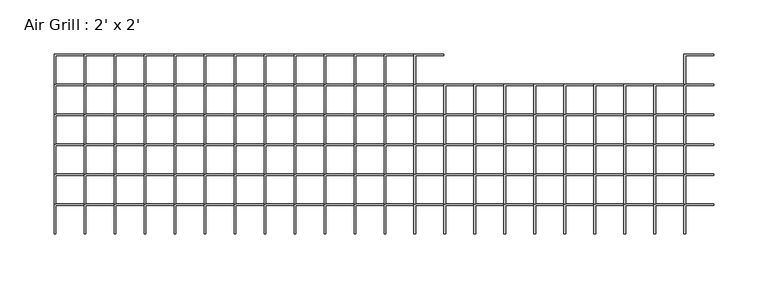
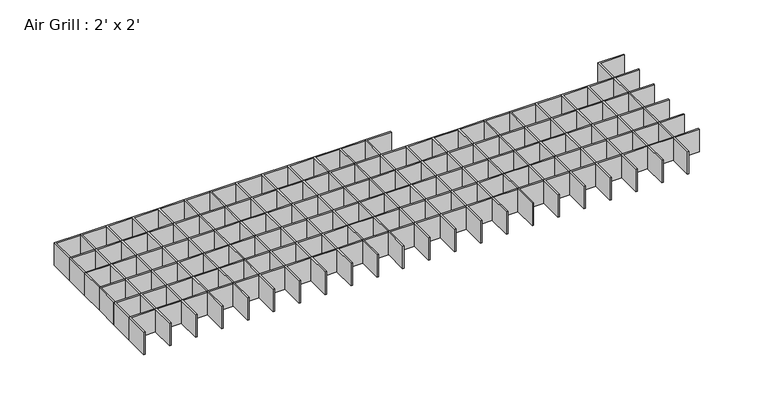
"""IFC4 building model written with IfcOpenShell, lengths in millimetres: proxy geometry, Air Grill : 2' x 2'."""

from ifc_helpers import new_model, si_unit, frame, origin, place, context, project, spatial, polyline, outline, extrude, source, transform, mapped, element, save


def air_grill_2_x_2_5c2ee384(model_context):
    return source(origin(), model_context, "Body", "SweptSolid", [
        extrude(outline(polyline([(26.8431818, -26.8431818), (54.4801136, -26.8431818), (54.4801136, -28.4306818), (28.4306818, -28.4306818), (28.4306818, -54.4801136), (26.8431818, -54.4801136), (26.8431818, -26.8431818)])), frame((0.0, 0.0, 2438.4), z_axis=(0.0, 0.0, 1.0), x_axis=(1.0, 0.0, 0.0)), (0.0, 0.0, 1.0), 25.4),
        extrude(outline(polyline([(-0.79375, -26.8431818), (26.8431818, -26.8431818), (26.8431818, -28.4306818), (0.79375, -28.4306818), (0.79375, -54.4801136), (-0.79375, -54.4801136), (-0.79375, -26.8431818)])), frame((0.0, 0.0, 2438.4), z_axis=(0.0, 0.0, 1.0), x_axis=(1.0, 0.0, 0.0)), (0.0, 0.0, 1.0), 25.4),
        extrude(outline(polyline([(-28.4306818, -26.8431818), (-0.79375, -26.8431818), (-0.79375, -28.4306818), (-26.8431818, -28.4306818), (-26.8431818, -54.4801136), (-28.4306818, -54.4801136), (-28.4306818, -26.8431818)])), frame((0.0, 0.0, 2438.4), z_axis=(0.0, 0.0, 1.0), x_axis=(1.0, 0.0, 0.0)), (0.0, 0.0, 1.0), 25.4),
        extrude(outline(polyline([(-56.0676136, -26.8431818), (-28.4306818, -26.8431818), (-28.4306818, -28.4306818), (-54.4801136, -28.4306818), (-54.4801136, -54.4801136), (-56.0676136, -54.4801136), (-56.0676136, -26.8431818)])), frame((0.0, 0.0, 2438.4), z_axis=(0.0, 0.0, 1.0), x_axis=(1.0, 0.0, 0.0)), (0.0, 0.0, 1.0), 25.4),
        extrude(outline(polyline([(-83.7045455, -26.8431818), (-56.0676136, -26.8431818), (-56.0676136, -28.4306818), (-82.1170455, -28.4306818), (-82.1170455, -54.4801136), (-83.7045455, -54.4801136), (-83.7045455, -26.8431818)])), frame((0.0, 0.0, 2438.4), z_axis=(0.0, 0.0, 1.0), x_axis=(1.0, 0.0, 0.0)), (0.0, 0.0, 1.0), 25.4),
        extrude(outline(polyline([(-111.3414773, -26.8431818), (-83.7045455, -26.8431818), (-83.7045455, -28.4306818), (-109.7539773, -28.4306818), (-109.7539773, -54.4801136), (-111.3414773, -54.4801136), (-111.3414773, -26.8431818)])), frame((0.0, 0.0, 2438.4), z_axis=(0.0, 0.0, 1.0), x_axis=(1.0, 0.0, 0.0)), (0.0, 0.0, 1.0), 25.4),
        extrude(outline(polyline([(-138.9784091, -26.8431818), (-111.3414773, -26.8431818), (-111.3414773, -28.4306818), (-137.3909091, -28.4306818), (-137.3909091, -54.4801136), (-138.9784091, -54.4801136), (-138.9784091, -26.8431818)])), frame((0.0, 0.0, 2438.4), z_axis=(0.0, 0.0, 1.0), x_axis=(1.0, 0.0, 0.0)), (0.0, 0.0, 1.0), 25.4),
        extrude(outline(polyline([(-166.6153409, -26.8431818), (-138.9784091, -26.8431818), (-138.9784091, -28.4306818), (-165.0278409, -28.4306818), (-165.0278409, -54.4801136), (-166.6153409, -54.4801136), (-166.6153409, -26.8431818)])), frame((0.0, 0.0, 2438.4), z_axis=(0.0, 0.0, 1.0), x_axis=(1.0, 0.0, 0.0)), (0.0, 0.0, 1.0), 25.4),
        extrude(outline(polyline([(-194.2522727, -26.8431818), (-166.6153409, -26.8431818), (-166.6153409, -28.4306818), (-192.6647727, -28.4306818), (-192.6647727, -54.4801136), (-194.2522727, -54.4801136), (-194.2522727, -26.8431818)])), frame((0.0, 0.0, 2438.4), z_axis=(0.0, 0.0, 1.0), x_axis=(1.0, 0.0, 0.0)), (0.0, 0.0, 1.0), 25.4),
        extrude(outline(polyline([(-221.8892045, -26.8431818), (-194.2522727, -26.8431818), (-194.2522727, -28.4306818), (-220.3017045, -28.4306818), (-220.3017045, -54.4801136), (-221.8892045, -54.4801136), (-221.8892045, -26.8431818)])), frame((0.0, 0.0, 2438.4), z_axis=(0.0, 0.0, 1.0), x_axis=(1.0, 0.0, 0.0)), (0.0, 0.0, 1.0), 25.4),
        extrude(outline(polyline([(-249.5261364, -26.8431818), (-221.8892045, -26.8431818), (-221.8892045, -28.4306818), (-247.9386364, -28.4306818), (-247.9386364, -54.4801136), (-249.5261364, -54.4801136), (-249.5261364, -26.8431818)])), frame((0.0, 0.0, 2438.4), z_axis=(0.0, 0.0, 1.0), x_axis=(1.0, 0.0, 0.0)), (0.0, 0.0, 1.0), 25.4),
        extrude(outline(polyline([(-277.1630682, -26.8431818), (-249.5261364, -26.8431818), (-249.5261364, -28.4306818), (-275.5755682, -28.4306818), (-275.5755682, -54.4801136), (-277.1630682, -54.4801136), (-277.1630682, -26.8431818)])), frame((0.0, 0.0, 2438.4), z_axis=(0.0, 0.0, 1.0), x_axis=(1.0, 0.0, 0.0)), (0.0, 0.0, 1.0), 25.4),
        extrude(outline(polyline([(275.5755682, -26.8431818), (303.2125, -26.8431818), (303.2125, -28.4306818), (277.1630682, -28.4306818), (277.1630682, -54.4801136), (275.5755682, -54.4801136), (275.5755682, -26.8431818)])), frame((0.0, 0.0, 2438.4), z_axis=(0.0, 0.0, 1.0), x_axis=(1.0, 0.0, 0.0)), (0.0, 0.0, 1.0), 25.4),
        extrude(outline(polyline([(-304.8, -26.8431818), (-277.1630682, -26.8431818), (-277.1630682, -28.4306818), (-303.2125, -28.4306818), (-303.2125, -54.4801136), (-304.8, -54.4801136), (-304.8, -26.8431818)])), frame((0.0, 0.0, 2438.4), z_axis=(0.0, 0.0, 1.0), x_axis=(1.0, 0.0, 0.0)), (0.0, 0.0, 1.0), 25.4),
        extrude(outline(polyline([(247.9386364, -54.4801136), (275.5755682, -54.4801136), (275.5755682, -56.0676136), (249.5261364, -56.0676136), (249.5261364, -82.1170455), (247.9386364, -82.1170455), (247.9386364, -54.4801136)])), frame((0.0, 0.0, 2438.4), z_axis=(0.0, 0.0, 1.0), x_axis=(1.0, 0.0, 0.0)), (0.0, 0.0, 1.0), 25.4),
        extrude(outline(polyline([(220.3017045, -54.4801136), (247.9386364, -54.4801136), (247.9386364, -56.0676136), (221.8892045, -56.0676136), (221.8892045, -82.1170455), (220.3017045, -82.1170455), (220.3017045, -54.4801136)])), frame((0.0, 0.0, 2438.4), z_axis=(0.0, 0.0, 1.0), x_axis=(1.0, 0.0, 0.0)), (0.0, 0.0, 1.0), 25.4),
        extrude(outline(polyline([(192.6647727, -54.4801136), (220.3017045, -54.4801136), (220.3017045, -56.0676136), (194.2522727, -56.0676136), (194.2522727, -82.1170455), (192.6647727, -82.1170455), (192.6647727, -54.4801136)])), frame((0.0, 0.0, 2438.4), z_axis=(0.0, 0.0, 1.0), x_axis=(1.0, 0.0, 0.0)), (0.0, 0.0, 1.0), 25.4),
        extrude(outline(polyline([(165.0278409, -54.4801136), (192.6647727, -54.4801136), (192.6647727, -56.0676136), (166.6153409, -56.0676136), (166.6153409, -82.1170455), (165.0278409, -82.1170455), (165.0278409, -54.4801136)])), frame((0.0, 0.0, 2438.4), z_axis=(0.0, 0.0, 1.0), x_axis=(1.0, 0.0, 0.0)), (0.0, 0.0, 1.0), 25.4),
        extrude(outline(polyline([(137.3909091, -54.4801136), (165.0278409, -54.4801136), (165.0278409, -56.0676136), (138.9784091, -56.0676136), (138.9784091, -82.1170455), (137.3909091, -82.1170455), (137.3909091, -54.4801136)])), frame((0.0, 0.0, 2438.4), z_axis=(0.0, 0.0, 1.0), x_axis=(1.0, 0.0, 0.0)), (0.0, 0.0, 1.0), 25.4),
        extrude(outline(polyline([(109.7539773, -54.4801136), (137.3909091, -54.4801136), (137.3909091, -56.0676136), (111.3414773, -56.0676136), (111.3414773, -82.1170455), (109.7539773, -82.1170455), (109.7539773, -54.4801136)])), frame((0.0, 0.0, 2438.4), z_axis=(0.0, 0.0, 1.0), x_axis=(1.0, 0.0, 0.0)), (0.0, 0.0, 1.0), 25.4),
        extrude(outline(polyline([(82.1170455, -54.4801136), (109.7539773, -54.4801136), (109.7539773, -56.0676136), (83.7045455, -56.0676136), (83.7045455, -82.1170455), (82.1170455, -82.1170455), (82.1170455, -54.4801136)])), frame((0.0, 0.0, 2438.4), z_axis=(0.0, 0.0, 1.0), x_axis=(1.0, 0.0, 0.0)), (0.0, 0.0, 1.0), 25.4),
        extrude(outline(polyline([(54.4801136, -54.4801136), (82.1170455, -54.4801136), (82.1170455, -56.0676136), (56.0676136, -56.0676136), (56.0676136, -82.1170455), (54.4801136, -82.1170455), (54.4801136, -54.4801136)])), frame((0.0, 0.0, 2438.4), z_axis=(0.0, 0.0, 1.0), x_axis=(1.0, 0.0, 0.0)), (0.0, 0.0, 1.0), 25.4),
        extrude(outline(polyline([(26.8431818, -54.4801136), (54.4801136, -54.4801136), (54.4801136, -56.0676136), (28.4306818, -56.0676136), (28.4306818, -82.1170455), (26.8431818, -82.1170455), (26.8431818, -54.4801136)])), frame((0.0, 0.0, 2438.4), z_axis=(0.0, 0.0, 1.0), x_axis=(1.0, 0.0, 0.0)), (0.0, 0.0, 1.0), 25.4),
        extrude(outline(polyline([(-0.79375, -54.4801136), (26.8431818, -54.4801136), (26.8431818, -56.0676136), (0.79375, -56.0676136), (0.79375, -82.1170455), (-0.79375, -82.1170455), (-0.79375, -54.4801136)])), frame((0.0, 0.0, 2438.4), z_axis=(0.0, 0.0, 1.0), x_axis=(1.0, 0.0, 0.0)), (0.0, 0.0, 1.0), 25.4),
        extrude(outline(polyline([(-28.4306818, -54.4801136), (-0.79375, -54.4801136), (-0.79375, -56.0676136), (-26.8431818, -56.0676136), (-26.8431818, -82.1170455), (-28.4306818, -82.1170455), (-28.4306818, -54.4801136)])), frame((0.0, 0.0, 2438.4), z_axis=(0.0, 0.0, 1.0), x_axis=(1.0, 0.0, 0.0)), (0.0, 0.0, 1.0), 25.4),
        extrude(outline(polyline([(-56.0676136, -54.4801136), (-28.4306818, -54.4801136), (-28.4306818, -56.0676136), (-54.4801136, -56.0676136), (-54.4801136, -82.1170455), (-56.0676136, -82.1170455), (-56.0676136, -54.4801136)])), frame((0.0, 0.0, 2438.4), z_axis=(0.0, 0.0, 1.0), x_axis=(1.0, 0.0, 0.0)), (0.0, 0.0, 1.0), 25.4),
        extrude(outline(polyline([(-83.7045455, -54.4801136), (-56.0676136, -54.4801136), (-56.0676136, -56.0676136), (-82.1170455, -56.0676136), (-82.1170455, -82.1170455), (-83.7045455, -82.1170455), (-83.7045455, -54.4801136)])), frame((0.0, 0.0, 2438.4), z_axis=(0.0, 0.0, 1.0), x_axis=(1.0, 0.0, 0.0)), (0.0, 0.0, 1.0), 25.4),
        extrude(outline(polyline([(-111.3414773, -54.4801136), (-83.7045455, -54.4801136), (-83.7045455, -56.0676136), (-109.7539773, -56.0676136), (-109.7539773, -82.1170455), (-111.3414773, -82.1170455), (-111.3414773, -54.4801136)])), frame((0.0, 0.0, 2438.4), z_axis=(0.0, 0.0, 1.0), x_axis=(1.0, 0.0, 0.0)), (0.0, 0.0, 1.0), 25.4),
        extrude(outline(polyline([(-138.9784091, -54.4801136), (-111.3414773, -54.4801136), (-111.3414773, -56.0676136), (-137.3909091, -56.0676136), (-137.3909091, -82.1170455), (-138.9784091, -82.1170455), (-138.9784091, -54.4801136)])), frame((0.0, 0.0, 2438.4), z_axis=(0.0, 0.0, 1.0), x_axis=(1.0, 0.0, 0.0)), (0.0, 0.0, 1.0), 25.4),
        extrude(outline(polyline([(-166.6153409, -54.4801136), (-138.9784091, -54.4801136), (-138.9784091, -56.0676136), (-165.0278409, -56.0676136), (-165.0278409, -82.1170455), (-166.6153409, -82.1170455), (-166.6153409, -54.4801136)])), frame((0.0, 0.0, 2438.4), z_axis=(0.0, 0.0, 1.0), x_axis=(1.0, 0.0, 0.0)), (0.0, 0.0, 1.0), 25.4),
        extrude(outline(polyline([(-194.2522727, -54.4801136), (-166.6153409, -54.4801136), (-166.6153409, -56.0676136), (-192.6647727, -56.0676136), (-192.6647727, -82.1170455), (-194.2522727, -82.1170455), (-194.2522727, -54.4801136)])), frame((0.0, 0.0, 2438.4), z_axis=(0.0, 0.0, 1.0), x_axis=(1.0, 0.0, 0.0)), (0.0, 0.0, 1.0), 25.4),
        extrude(outline(polyline([(-221.8892045, -54.4801136), (-194.2522727, -54.4801136), (-194.2522727, -56.0676136), (-220.3017045, -56.0676136), (-220.3017045, -82.1170455), (-221.8892045, -82.1170455), (-221.8892045, -54.4801136)])), frame((0.0, 0.0, 2438.4), z_axis=(0.0, 0.0, 1.0), x_axis=(1.0, 0.0, 0.0)), (0.0, 0.0, 1.0), 25.4),
        extrude(outline(polyline([(-249.5261364, -54.4801136), (-221.8892045, -54.4801136), (-221.8892045, -56.0676136), (-247.9386364, -56.0676136), (-247.9386364, -82.1170455), (-249.5261364, -82.1170455), (-249.5261364, -54.4801136)])), frame((0.0, 0.0, 2438.4), z_axis=(0.0, 0.0, 1.0), x_axis=(1.0, 0.0, 0.0)), (0.0, 0.0, 1.0), 25.4),
        extrude(outline(polyline([(-277.1630682, -54.4801136), (-249.5261364, -54.4801136), (-249.5261364, -56.0676136), (-275.5755682, -56.0676136), (-275.5755682, -82.1170455), (-277.1630682, -82.1170455), (-277.1630682, -54.4801136)])), frame((0.0, 0.0, 2438.4), z_axis=(0.0, 0.0, 1.0), x_axis=(1.0, 0.0, 0.0)), (0.0, 0.0, 1.0), 25.4),
        extrude(outline(polyline([(275.5755682, -54.4801136), (303.2125, -54.4801136), (303.2125, -56.0676136), (277.1630682, -56.0676136), (277.1630682, -82.1170455), (275.5755682, -82.1170455), (275.5755682, -54.4801136)])), frame((0.0, 0.0, 2438.4), z_axis=(0.0, 0.0, 1.0), x_axis=(1.0, 0.0, 0.0)), (0.0, 0.0, 1.0), 25.4),
        extrude(outline(polyline([(-304.8, -54.4801136), (-277.1630682, -54.4801136), (-277.1630682, -56.0676136), (-303.2125, -56.0676136), (-303.2125, -82.1170455), (-304.8, -82.1170455), (-304.8, -54.4801136)])), frame((0.0, 0.0, 2438.4), z_axis=(0.0, 0.0, 1.0), x_axis=(1.0, 0.0, 0.0)), (0.0, 0.0, 1.0), 25.4),
        extrude(outline(polyline([(247.9386364, -82.1170455), (275.5755682, -82.1170455), (275.5755682, -83.7045455), (249.5261364, -83.7045455), (249.5261364, -109.7539773), (247.9386364, -109.7539773), (247.9386364, -82.1170455)])), frame((0.0, 0.0, 2438.4), z_axis=(0.0, 0.0, 1.0), x_axis=(1.0, 0.0, 0.0)), (0.0, 0.0, 1.0), 25.4),
        extrude(outline(polyline([(220.3017045, -82.1170455), (247.9386364, -82.1170455), (247.9386364, -83.7045455), (221.8892045, -83.7045455), (221.8892045, -109.7539773), (220.3017045, -109.7539773), (220.3017045, -82.1170455)])), frame((0.0, 0.0, 2438.4), z_axis=(0.0, 0.0, 1.0), x_axis=(1.0, 0.0, 0.0)), (0.0, 0.0, 1.0), 25.4),
        extrude(outline(polyline([(192.6647727, -82.1170455), (220.3017045, -82.1170455), (220.3017045, -83.7045455), (194.2522727, -83.7045455), (194.2522727, -109.7539773), (192.6647727, -109.7539773), (192.6647727, -82.1170455)])), frame((0.0, 0.0, 2438.4), z_axis=(0.0, 0.0, 1.0), x_axis=(1.0, 0.0, 0.0)), (0.0, 0.0, 1.0), 25.4),
        extrude(outline(polyline([(165.0278409, -82.1170455), (192.6647727, -82.1170455), (192.6647727, -83.7045455), (166.6153409, -83.7045455), (166.6153409, -109.7539773), (165.0278409, -109.7539773), (165.0278409, -82.1170455)])), frame((0.0, 0.0, 2438.4), z_axis=(0.0, 0.0, 1.0), x_axis=(1.0, 0.0, 0.0)), (0.0, 0.0, 1.0), 25.4),
        extrude(outline(polyline([(137.3909091, -82.1170455), (165.0278409, -82.1170455), (165.0278409, -83.7045455), (138.9784091, -83.7045455), (138.9784091, -109.7539773), (137.3909091, -109.7539773), (137.3909091, -82.1170455)])), frame((0.0, 0.0, 2438.4), z_axis=(0.0, 0.0, 1.0), x_axis=(1.0, 0.0, 0.0)), (0.0, 0.0, 1.0), 25.4),
        extrude(outline(polyline([(109.7539773, -82.1170455), (137.3909091, -82.1170455), (137.3909091, -83.7045455), (111.3414773, -83.7045455), (111.3414773, -109.7539773), (109.7539773, -109.7539773), (109.7539773, -82.1170455)])), frame((0.0, 0.0, 2438.4), z_axis=(0.0, 0.0, 1.0), x_axis=(1.0, 0.0, 0.0)), (0.0, 0.0, 1.0), 25.4),
        extrude(outline(polyline([(82.1170455, -82.1170455), (109.7539773, -82.1170455), (109.7539773, -83.7045455), (83.7045455, -83.7045455), (83.7045455, -109.7539773), (82.1170455, -109.7539773), (82.1170455, -82.1170455)])), frame((0.0, 0.0, 2438.4), z_axis=(0.0, 0.0, 1.0), x_axis=(1.0, 0.0, 0.0)), (0.0, 0.0, 1.0), 25.4),
        extrude(outline(polyline([(54.4801136, -82.1170455), (82.1170455, -82.1170455), (82.1170455, -83.7045455), (56.0676136, -83.7045455), (56.0676136, -109.7539773), (54.4801136, -109.7539773), (54.4801136, -82.1170455)])), frame((0.0, 0.0, 2438.4), z_axis=(0.0, 0.0, 1.0), x_axis=(1.0, 0.0, 0.0)), (0.0, 0.0, 1.0), 25.4),
        extrude(outline(polyline([(26.8431818, -82.1170455), (54.4801136, -82.1170455), (54.4801136, -83.7045455), (28.4306818, -83.7045455), (28.4306818, -109.7539773), (26.8431818, -109.7539773), (26.8431818, -82.1170455)])), frame((0.0, 0.0, 2438.4), z_axis=(0.0, 0.0, 1.0), x_axis=(1.0, 0.0, 0.0)), (0.0, 0.0, 1.0), 25.4),
        extrude(outline(polyline([(-0.79375, -82.1170455), (26.8431818, -82.1170455), (26.8431818, -83.7045455), (0.79375, -83.7045455), (0.79375, -109.7539773), (-0.79375, -109.7539773), (-0.79375, -82.1170455)])), frame((0.0, 0.0, 2438.4), z_axis=(0.0, 0.0, 1.0), x_axis=(1.0, 0.0, 0.0)), (0.0, 0.0, 1.0), 25.4),
        extrude(outline(polyline([(-28.4306818, -82.1170455), (-0.79375, -82.1170455), (-0.79375, -83.7045455), (-26.8431818, -83.7045455), (-26.8431818, -109.7539773), (-28.4306818, -109.7539773), (-28.4306818, -82.1170455)])), frame((0.0, 0.0, 2438.4), z_axis=(0.0, 0.0, 1.0), x_axis=(1.0, 0.0, 0.0)), (0.0, 0.0, 1.0), 25.4),
        extrude(outline(polyline([(-56.0676136, -82.1170455), (-28.4306818, -82.1170455), (-28.4306818, -83.7045455), (-54.4801136, -83.7045455), (-54.4801136, -109.7539773), (-56.0676136, -109.7539773), (-56.0676136, -82.1170455)])), frame((0.0, 0.0, 2438.4), z_axis=(0.0, 0.0, 1.0), x_axis=(1.0, 0.0, 0.0)), (0.0, 0.0, 1.0), 25.4),
        extrude(outline(polyline([(-83.7045455, -82.1170455), (-56.0676136, -82.1170455), (-56.0676136, -83.7045455), (-82.1170455, -83.7045455), (-82.1170455, -109.7539773), (-83.7045455, -109.7539773), (-83.7045455, -82.1170455)])), frame((0.0, 0.0, 2438.4), z_axis=(0.0, 0.0, 1.0), x_axis=(1.0, 0.0, 0.0)), (0.0, 0.0, 1.0), 25.4),
        extrude(outline(polyline([(-111.3414773, -82.1170455), (-83.7045455, -82.1170455), (-83.7045455, -83.7045455), (-109.7539773, -83.7045455), (-109.7539773, -109.7539773), (-111.3414773, -109.7539773), (-111.3414773, -82.1170455)])), frame((0.0, 0.0, 2438.4), z_axis=(0.0, 0.0, 1.0), x_axis=(1.0, 0.0, 0.0)), (0.0, 0.0, 1.0), 25.4),
        extrude(outline(polyline([(-138.9784091, -82.1170455), (-111.3414773, -82.1170455), (-111.3414773, -83.7045455), (-137.3909091, -83.7045455), (-137.3909091, -109.7539773), (-138.9784091, -109.7539773), (-138.9784091, -82.1170455)])), frame((0.0, 0.0, 2438.4), z_axis=(0.0, 0.0, 1.0), x_axis=(1.0, 0.0, 0.0)), (0.0, 0.0, 1.0), 25.4),
        extrude(outline(polyline([(-166.6153409, -82.1170455), (-138.9784091, -82.1170455), (-138.9784091, -83.7045455), (-165.0278409, -83.7045455), (-165.0278409, -109.7539773), (-166.6153409, -109.7539773), (-166.6153409, -82.1170455)])), frame((0.0, 0.0, 2438.4), z_axis=(0.0, 0.0, 1.0), x_axis=(1.0, 0.0, 0.0)), (0.0, 0.0, 1.0), 25.4),
        extrude(outline(polyline([(-194.2522727, -82.1170455), (-166.6153409, -82.1170455), (-166.6153409, -83.7045455), (-192.6647727, -83.7045455), (-192.6647727, -109.7539773), (-194.2522727, -109.7539773), (-194.2522727, -82.1170455)])), frame((0.0, 0.0, 2438.4), z_axis=(0.0, 0.0, 1.0), x_axis=(1.0, 0.0, 0.0)), (0.0, 0.0, 1.0), 25.4),
        extrude(outline(polyline([(-221.8892045, -82.1170455), (-194.2522727, -82.1170455), (-194.2522727, -83.7045455), (-220.3017045, -83.7045455), (-220.3017045, -109.7539773), (-221.8892045, -109.7539773), (-221.8892045, -82.1170455)])), frame((0.0, 0.0, 2438.4), z_axis=(0.0, 0.0, 1.0), x_axis=(1.0, 0.0, 0.0)), (0.0, 0.0, 1.0), 25.4),
        extrude(outline(polyline([(-249.5261364, -82.1170455), (-221.8892045, -82.1170455), (-221.8892045, -83.7045455), (-247.9386364, -83.7045455), (-247.9386364, -109.7539773), (-249.5261364, -109.7539773), (-249.5261364, -82.1170455)])), frame((0.0, 0.0, 2438.4), z_axis=(0.0, 0.0, 1.0), x_axis=(1.0, 0.0, 0.0)), (0.0, 0.0, 1.0), 25.4),
        extrude(outline(polyline([(-277.1630682, -82.1170455), (-249.5261364, -82.1170455), (-249.5261364, -83.7045455), (-275.5755682, -83.7045455), (-275.5755682, -109.7539773), (-277.1630682, -109.7539773), (-277.1630682, -82.1170455)])), frame((0.0, 0.0, 2438.4), z_axis=(0.0, 0.0, 1.0), x_axis=(1.0, 0.0, 0.0)), (0.0, 0.0, 1.0), 25.4),
        extrude(outline(polyline([(275.5755682, -82.1170455), (303.2125, -82.1170455), (303.2125, -83.7045455), (277.1630682, -83.7045455), (277.1630682, -109.7539773), (275.5755682, -109.7539773), (275.5755682, -82.1170455)])), frame((0.0, 0.0, 2438.4), z_axis=(0.0, 0.0, 1.0), x_axis=(1.0, 0.0, 0.0)), (0.0, 0.0, 1.0), 25.4),
        extrude(outline(polyline([(-304.8, -82.1170455), (-277.1630682, -82.1170455), (-277.1630682, -83.7045455), (-303.2125, -83.7045455), (-303.2125, -109.7539773), (-304.8, -109.7539773), (-304.8, -82.1170455)])), frame((0.0, 0.0, 2438.4), z_axis=(0.0, 0.0, 1.0), x_axis=(1.0, 0.0, 0.0)), (0.0, 0.0, 1.0), 25.4),
        extrude(outline(polyline([(247.9386364, -109.7539773), (275.5755682, -109.7539773), (275.5755682, -111.3414773), (249.5261364, -111.3414773), (249.5261364, -137.3909091), (247.9386364, -137.3909091), (247.9386364, -109.7539773)])), frame((0.0, 0.0, 2438.4), z_axis=(0.0, 0.0, 1.0), x_axis=(1.0, 0.0, 0.0)), (0.0, 0.0, 1.0), 25.4),
        extrude(outline(polyline([(220.3017045, -109.7539773), (247.9386364, -109.7539773), (247.9386364, -111.3414773), (221.8892045, -111.3414773), (221.8892045, -137.3909091), (220.3017045, -137.3909091), (220.3017045, -109.7539773)])), frame((0.0, 0.0, 2438.4), z_axis=(0.0, 0.0, 1.0), x_axis=(1.0, 0.0, 0.0)), (0.0, 0.0, 1.0), 25.4),
        extrude(outline(polyline([(192.6647727, -109.7539773), (220.3017045, -109.7539773), (220.3017045, -111.3414773), (194.2522727, -111.3414773), (194.2522727, -137.3909091), (192.6647727, -137.3909091), (192.6647727, -109.7539773)])), frame((0.0, 0.0, 2438.4), z_axis=(0.0, 0.0, 1.0), x_axis=(1.0, 0.0, 0.0)), (0.0, 0.0, 1.0), 25.4),
        extrude(outline(polyline([(165.0278409, -109.7539773), (192.6647727, -109.7539773), (192.6647727, -111.3414773), (166.6153409, -111.3414773), (166.6153409, -137.3909091), (165.0278409, -137.3909091), (165.0278409, -109.7539773)])), frame((0.0, 0.0, 2438.4), z_axis=(0.0, 0.0, 1.0), x_axis=(1.0, 0.0, 0.0)), (0.0, 0.0, 1.0), 25.4),
        extrude(outline(polyline([(137.3909091, -109.7539773), (165.0278409, -109.7539773), (165.0278409, -111.3414773), (138.9784091, -111.3414773), (138.9784091, -137.3909091), (137.3909091, -137.3909091), (137.3909091, -109.7539773)])), frame((0.0, 0.0, 2438.4), z_axis=(0.0, 0.0, 1.0), x_axis=(1.0, 0.0, 0.0)), (0.0, 0.0, 1.0), 25.4),
        extrude(outline(polyline([(109.7539773, -109.7539773), (137.3909091, -109.7539773), (137.3909091, -111.3414773), (111.3414773, -111.3414773), (111.3414773, -137.3909091), (109.7539773, -137.3909091), (109.7539773, -109.7539773)])), frame((0.0, 0.0, 2438.4), z_axis=(0.0, 0.0, 1.0), x_axis=(1.0, 0.0, 0.0)), (0.0, 0.0, 1.0), 25.4),
        extrude(outline(polyline([(82.1170455, -109.7539773), (109.7539773, -109.7539773), (109.7539773, -111.3414773), (83.7045455, -111.3414773), (83.7045455, -137.3909091), (82.1170455, -137.3909091), (82.1170455, -109.7539773)])), frame((0.0, 0.0, 2438.4), z_axis=(0.0, 0.0, 1.0), x_axis=(1.0, 0.0, 0.0)), (0.0, 0.0, 1.0), 25.4),
        extrude(outline(polyline([(54.4801136, -109.7539773), (82.1170455, -109.7539773), (82.1170455, -111.3414773), (56.0676136, -111.3414773), (56.0676136, -137.3909091), (54.4801136, -137.3909091), (54.4801136, -109.7539773)])), frame((0.0, 0.0, 2438.4), z_axis=(0.0, 0.0, 1.0), x_axis=(1.0, 0.0, 0.0)), (0.0, 0.0, 1.0), 25.4),
        extrude(outline(polyline([(26.8431818, -109.7539773), (54.4801136, -109.7539773), (54.4801136, -111.3414773), (28.4306818, -111.3414773), (28.4306818, -137.3909091), (26.8431818, -137.3909091), (26.8431818, -109.7539773)])), frame((0.0, 0.0, 2438.4), z_axis=(0.0, 0.0, 1.0), x_axis=(1.0, 0.0, 0.0)), (0.0, 0.0, 1.0), 25.4),
        extrude(outline(polyline([(-0.79375, -109.7539773), (26.8431818, -109.7539773), (26.8431818, -111.3414773), (0.79375, -111.3414773), (0.79375, -137.3909091), (-0.79375, -137.3909091), (-0.79375, -109.7539773)])), frame((0.0, 0.0, 2438.4), z_axis=(0.0, 0.0, 1.0), x_axis=(1.0, 0.0, 0.0)), (0.0, 0.0, 1.0), 25.4),
        extrude(outline(polyline([(-28.4306818, -109.7539773), (-0.79375, -109.7539773), (-0.79375, -111.3414773), (-26.8431818, -111.3414773), (-26.8431818, -137.3909091), (-28.4306818, -137.3909091), (-28.4306818, -109.7539773)])), frame((0.0, 0.0, 2438.4), z_axis=(0.0, 0.0, 1.0), x_axis=(1.0, 0.0, 0.0)), (0.0, 0.0, 1.0), 25.4),
        extrude(outline(polyline([(-56.0676136, -109.7539773), (-28.4306818, -109.7539773), (-28.4306818, -111.3414773), (-54.4801136, -111.3414773), (-54.4801136, -137.3909091), (-56.0676136, -137.3909091), (-56.0676136, -109.7539773)])), frame((0.0, 0.0, 2438.4), z_axis=(0.0, 0.0, 1.0), x_axis=(1.0, 0.0, 0.0)), (0.0, 0.0, 1.0), 25.4),
        extrude(outline(polyline([(-83.7045455, -109.7539773), (-56.0676136, -109.7539773), (-56.0676136, -111.3414773), (-82.1170455, -111.3414773), (-82.1170455, -137.3909091), (-83.7045455, -137.3909091), (-83.7045455, -109.7539773)])), frame((0.0, 0.0, 2438.4), z_axis=(0.0, 0.0, 1.0), x_axis=(1.0, 0.0, 0.0)), (0.0, 0.0, 1.0), 25.4),
        extrude(outline(polyline([(-111.3414773, -109.7539773), (-83.7045455, -109.7539773), (-83.7045455, -111.3414773), (-109.7539773, -111.3414773), (-109.7539773, -137.3909091), (-111.3414773, -137.3909091), (-111.3414773, -109.7539773)])), frame((0.0, 0.0, 2438.4), z_axis=(0.0, 0.0, 1.0), x_axis=(1.0, 0.0, 0.0)), (0.0, 0.0, 1.0), 25.4),
        extrude(outline(polyline([(-138.9784091, -109.7539773), (-111.3414773, -109.7539773), (-111.3414773, -111.3414773), (-137.3909091, -111.3414773), (-137.3909091, -137.3909091), (-138.9784091, -137.3909091), (-138.9784091, -109.7539773)])), frame((0.0, 0.0, 2438.4), z_axis=(0.0, 0.0, 1.0), x_axis=(1.0, 0.0, 0.0)), (0.0, 0.0, 1.0), 25.4),
        extrude(outline(polyline([(-166.6153409, -109.7539773), (-138.9784091, -109.7539773), (-138.9784091, -111.3414773), (-165.0278409, -111.3414773), (-165.0278409, -137.3909091), (-166.6153409, -137.3909091), (-166.6153409, -109.7539773)])), frame((0.0, 0.0, 2438.4), z_axis=(0.0, 0.0, 1.0), x_axis=(1.0, 0.0, 0.0)), (0.0, 0.0, 1.0), 25.4),
        extrude(outline(polyline([(-194.2522727, -109.7539773), (-166.6153409, -109.7539773), (-166.6153409, -111.3414773), (-192.6647727, -111.3414773), (-192.6647727, -137.3909091), (-194.2522727, -137.3909091), (-194.2522727, -109.7539773)])), frame((0.0, 0.0, 2438.4), z_axis=(0.0, 0.0, 1.0), x_axis=(1.0, 0.0, 0.0)), (0.0, 0.0, 1.0), 25.4),
        extrude(outline(polyline([(-221.8892045, -109.7539773), (-194.2522727, -109.7539773), (-194.2522727, -111.3414773), (-220.3017045, -111.3414773), (-220.3017045, -137.3909091), (-221.8892045, -137.3909091), (-221.8892045, -109.7539773)])), frame((0.0, 0.0, 2438.4), z_axis=(0.0, 0.0, 1.0), x_axis=(1.0, 0.0, 0.0)), (0.0, 0.0, 1.0), 25.4),
        extrude(outline(polyline([(-249.5261364, -109.7539773), (-221.8892045, -109.7539773), (-221.8892045, -111.3414773), (-247.9386364, -111.3414773), (-247.9386364, -137.3909091), (-249.5261364, -137.3909091), (-249.5261364, -109.7539773)])), frame((0.0, 0.0, 2438.4), z_axis=(0.0, 0.0, 1.0), x_axis=(1.0, 0.0, 0.0)), (0.0, 0.0, 1.0), 25.4),
        extrude(outline(polyline([(-277.1630682, -109.7539773), (-249.5261364, -109.7539773), (-249.5261364, -111.3414773), (-275.5755682, -111.3414773), (-275.5755682, -137.3909091), (-277.1630682, -137.3909091), (-277.1630682, -109.7539773)])), frame((0.0, 0.0, 2438.4), z_axis=(0.0, 0.0, 1.0), x_axis=(1.0, 0.0, 0.0)), (0.0, 0.0, 1.0), 25.4),
        extrude(outline(polyline([(275.5755682, -109.7539773), (303.2125, -109.7539773), (303.2125, -111.3414773), (277.1630682, -111.3414773), (277.1630682, -137.3909091), (275.5755682, -137.3909091), (275.5755682, -109.7539773)])), frame((0.0, 0.0, 2438.4), z_axis=(0.0, 0.0, 1.0), x_axis=(1.0, 0.0, 0.0)), (0.0, 0.0, 1.0), 25.4),
        extrude(outline(polyline([(-304.8, -109.7539773), (-277.1630682, -109.7539773), (-277.1630682, -111.3414773), (-303.2125, -111.3414773), (-303.2125, -137.3909091), (-304.8, -137.3909091), (-304.8, -109.7539773)])), frame((0.0, 0.0, 2438.4), z_axis=(0.0, 0.0, 1.0), x_axis=(1.0, 0.0, 0.0)), (0.0, 0.0, 1.0), 25.4),
        extrude(outline(polyline([(247.9386364, -137.3909091), (275.5755682, -137.3909091), (275.5755682, -138.9784091), (249.5261364, -138.9784091), (249.5261364, -165.0278409), (247.9386364, -165.0278409), (247.9386364, -137.3909091)])), frame((0.0, 0.0, 2438.4), z_axis=(0.0, 0.0, 1.0), x_axis=(1.0, 0.0, 0.0)), (0.0, 0.0, 1.0), 25.4),
        extrude(outline(polyline([(220.3017045, -137.3909091), (247.9386364, -137.3909091), (247.9386364, -138.9784091), (221.8892045, -138.9784091), (221.8892045, -165.0278409), (220.3017045, -165.0278409), (220.3017045, -137.3909091)])), frame((0.0, 0.0, 2438.4), z_axis=(0.0, 0.0, 1.0), x_axis=(1.0, 0.0, 0.0)), (0.0, 0.0, 1.0), 25.4),
        extrude(outline(polyline([(192.6647727, -137.3909091), (220.3017045, -137.3909091), (220.3017045, -138.9784091), (194.2522727, -138.9784091), (194.2522727, -165.0278409), (192.6647727, -165.0278409), (192.6647727, -137.3909091)])), frame((0.0, 0.0, 2438.4), z_axis=(0.0, 0.0, 1.0), x_axis=(1.0, 0.0, 0.0)), (0.0, 0.0, 1.0), 25.4),
        extrude(outline(polyline([(165.0278409, -137.3909091), (192.6647727, -137.3909091), (192.6647727, -138.9784091), (166.6153409, -138.9784091), (166.6153409, -165.0278409), (165.0278409, -165.0278409), (165.0278409, -137.3909091)])), frame((0.0, 0.0, 2438.4), z_axis=(0.0, 0.0, 1.0), x_axis=(1.0, 0.0, 0.0)), (0.0, 0.0, 1.0), 25.4),
        extrude(outline(polyline([(137.3909091, -137.3909091), (165.0278409, -137.3909091), (165.0278409, -138.9784091), (138.9784091, -138.9784091), (138.9784091, -165.0278409), (137.3909091, -165.0278409), (137.3909091, -137.3909091)])), frame((0.0, 0.0, 2438.4), z_axis=(0.0, 0.0, 1.0), x_axis=(1.0, 0.0, 0.0)), (0.0, 0.0, 1.0), 25.4),
        extrude(outline(polyline([(109.7539773, -137.3909091), (137.3909091, -137.3909091), (137.3909091, -138.9784091), (111.3414773, -138.9784091), (111.3414773, -165.0278409), (109.7539773, -165.0278409), (109.7539773, -137.3909091)])), frame((0.0, 0.0, 2438.4), z_axis=(0.0, 0.0, 1.0), x_axis=(1.0, 0.0, 0.0)), (0.0, 0.0, 1.0), 25.4),
        extrude(outline(polyline([(82.1170455, -137.3909091), (109.7539773, -137.3909091), (109.7539773, -138.9784091), (83.7045455, -138.9784091), (83.7045455, -165.0278409), (82.1170455, -165.0278409), (82.1170455, -137.3909091)])), frame((0.0, 0.0, 2438.4), z_axis=(0.0, 0.0, 1.0), x_axis=(1.0, 0.0, 0.0)), (0.0, 0.0, 1.0), 25.4),
        extrude(outline(polyline([(54.4801136, -137.3909091), (82.1170455, -137.3909091), (82.1170455, -138.9784091), (56.0676136, -138.9784091), (56.0676136, -165.0278409), (54.4801136, -165.0278409), (54.4801136, -137.3909091)])), frame((0.0, 0.0, 2438.4), z_axis=(0.0, 0.0, 1.0), x_axis=(1.0, 0.0, 0.0)), (0.0, 0.0, 1.0), 25.4),
        extrude(outline(polyline([(26.8431818, -137.3909091), (54.4801136, -137.3909091), (54.4801136, -138.9784091), (28.4306818, -138.9784091), (28.4306818, -165.0278409), (26.8431818, -165.0278409), (26.8431818, -137.3909091)])), frame((0.0, 0.0, 2438.4), z_axis=(0.0, 0.0, 1.0), x_axis=(1.0, 0.0, 0.0)), (0.0, 0.0, 1.0), 25.4),
        extrude(outline(polyline([(-0.79375, -137.3909091), (26.8431818, -137.3909091), (26.8431818, -138.9784091), (0.79375, -138.9784091), (0.79375, -165.0278409), (-0.79375, -165.0278409), (-0.79375, -137.3909091)])), frame((0.0, 0.0, 2438.4), z_axis=(0.0, 0.0, 1.0), x_axis=(1.0, 0.0, 0.0)), (0.0, 0.0, 1.0), 25.4),
        extrude(outline(polyline([(-28.4306818, -137.3909091), (-0.79375, -137.3909091), (-0.79375, -138.9784091), (-26.8431818, -138.9784091), (-26.8431818, -165.0278409), (-28.4306818, -165.0278409), (-28.4306818, -137.3909091)])), frame((0.0, 0.0, 2438.4), z_axis=(0.0, 0.0, 1.0), x_axis=(1.0, 0.0, 0.0)), (0.0, 0.0, 1.0), 25.4),
        extrude(outline(polyline([(-56.0676136, -137.3909091), (-28.4306818, -137.3909091), (-28.4306818, -138.9784091), (-54.4801136, -138.9784091), (-54.4801136, -165.0278409), (-56.0676136, -165.0278409), (-56.0676136, -137.3909091)])), frame((0.0, 0.0, 2438.4), z_axis=(0.0, 0.0, 1.0), x_axis=(1.0, 0.0, 0.0)), (0.0, 0.0, 1.0), 25.4),
        extrude(outline(polyline([(-83.7045455, -137.3909091), (-56.0676136, -137.3909091), (-56.0676136, -138.9784091), (-82.1170455, -138.9784091), (-82.1170455, -165.0278409), (-83.7045455, -165.0278409), (-83.7045455, -137.3909091)])), frame((0.0, 0.0, 2438.4), z_axis=(0.0, 0.0, 1.0), x_axis=(1.0, 0.0, 0.0)), (0.0, 0.0, 1.0), 25.4),
        extrude(outline(polyline([(-111.3414773, -137.3909091), (-83.7045455, -137.3909091), (-83.7045455, -138.9784091), (-109.7539773, -138.9784091), (-109.7539773, -165.0278409), (-111.3414773, -165.0278409), (-111.3414773, -137.3909091)])), frame((0.0, 0.0, 2438.4), z_axis=(0.0, 0.0, 1.0), x_axis=(1.0, 0.0, 0.0)), (0.0, 0.0, 1.0), 25.4),
        extrude(outline(polyline([(-138.9784091, -137.3909091), (-111.3414773, -137.3909091), (-111.3414773, -138.9784091), (-137.3909091, -138.9784091), (-137.3909091, -165.0278409), (-138.9784091, -165.0278409), (-138.9784091, -137.3909091)])), frame((0.0, 0.0, 2438.4), z_axis=(0.0, 0.0, 1.0), x_axis=(1.0, 0.0, 0.0)), (0.0, 0.0, 1.0), 25.4),
        extrude(outline(polyline([(-166.6153409, -137.3909091), (-138.9784091, -137.3909091), (-138.9784091, -138.9784091), (-165.0278409, -138.9784091), (-165.0278409, -165.0278409), (-166.6153409, -165.0278409), (-166.6153409, -137.3909091)])), frame((0.0, 0.0, 2438.4), z_axis=(0.0, 0.0, 1.0), x_axis=(1.0, 0.0, 0.0)), (0.0, 0.0, 1.0), 25.4),
        extrude(outline(polyline([(-194.2522727, -137.3909091), (-166.6153409, -137.3909091), (-166.6153409, -138.9784091), (-192.6647727, -138.9784091), (-192.6647727, -165.0278409), (-194.2522727, -165.0278409), (-194.2522727, -137.3909091)])), frame((0.0, 0.0, 2438.4), z_axis=(0.0, 0.0, 1.0), x_axis=(1.0, 0.0, 0.0)), (0.0, 0.0, 1.0), 25.4),
        extrude(outline(polyline([(-221.8892045, -137.3909091), (-194.2522727, -137.3909091), (-194.2522727, -138.9784091), (-220.3017045, -138.9784091), (-220.3017045, -165.0278409), (-221.8892045, -165.0278409), (-221.8892045, -137.3909091)])), frame((0.0, 0.0, 2438.4), z_axis=(0.0, 0.0, 1.0), x_axis=(1.0, 0.0, 0.0)), (0.0, 0.0, 1.0), 25.4),
        extrude(outline(polyline([(-249.5261364, -137.3909091), (-221.8892045, -137.3909091), (-221.8892045, -138.9784091), (-247.9386364, -138.9784091), (-247.9386364, -165.0278409), (-249.5261364, -165.0278409), (-249.5261364, -137.3909091)])), frame((0.0, 0.0, 2438.4), z_axis=(0.0, 0.0, 1.0), x_axis=(1.0, 0.0, 0.0)), (0.0, 0.0, 1.0), 25.4),
        extrude(outline(polyline([(-277.1630682, -137.3909091), (-249.5261364, -137.3909091), (-249.5261364, -138.9784091), (-275.5755682, -138.9784091), (-275.5755682, -165.0278409), (-277.1630682, -165.0278409), (-277.1630682, -137.3909091)])), frame((0.0, 0.0, 2438.4), z_axis=(0.0, 0.0, 1.0), x_axis=(1.0, 0.0, 0.0)), (0.0, 0.0, 1.0), 25.4),
        extrude(outline(polyline([(275.5755682, -137.3909091), (303.2125, -137.3909091), (303.2125, -138.9784091), (277.1630682, -138.9784091), (277.1630682, -165.0278409), (275.5755682, -165.0278409), (275.5755682, -137.3909091)])), frame((0.0, 0.0, 2438.4), z_axis=(0.0, 0.0, 1.0), x_axis=(1.0, 0.0, 0.0)), (0.0, 0.0, 1.0), 25.4),
        extrude(outline(polyline([(-304.8, -137.3909091), (-277.1630682, -137.3909091), (-277.1630682, -138.9784091), (-303.2125, -138.9784091), (-303.2125, -165.0278409), (-304.8, -165.0278409), (-304.8, -137.3909091)])), frame((0.0, 0.0, 2438.4), z_axis=(0.0, 0.0, 1.0), x_axis=(1.0, 0.0, 0.0)), (0.0, 0.0, 1.0), 25.4),
        extrude(outline(polyline([(247.9386364, -165.0278409), (275.5755682, -165.0278409), (275.5755682, -166.6153409), (249.5261364, -166.6153409), (249.5261364, -192.6647727), (247.9386364, -192.6647727), (247.9386364, -165.0278409)])), frame((0.0, 0.0, 2438.4), z_axis=(0.0, 0.0, 1.0), x_axis=(1.0, 0.0, 0.0)), (0.0, 0.0, 1.0), 25.4),
        extrude(outline(polyline([(220.3017045, -165.0278409), (247.9386364, -165.0278409), (247.9386364, -166.6153409), (221.8892045, -166.6153409), (221.8892045, -192.6647727), (220.3017045, -192.6647727), (220.3017045, -165.0278409)])), frame((0.0, 0.0, 2438.4), z_axis=(0.0, 0.0, 1.0), x_axis=(1.0, 0.0, 0.0)), (0.0, 0.0, 1.0), 25.4),
        extrude(outline(polyline([(192.6647727, -165.0278409), (220.3017045, -165.0278409), (220.3017045, -166.6153409), (194.2522727, -166.6153409), (194.2522727, -192.6647727), (192.6647727, -192.6647727), (192.6647727, -165.0278409)])), frame((0.0, 0.0, 2438.4), z_axis=(0.0, 0.0, 1.0), x_axis=(1.0, 0.0, 0.0)), (0.0, 0.0, 1.0), 25.4),
        extrude(outline(polyline([(165.0278409, -165.0278409), (192.6647727, -165.0278409), (192.6647727, -166.6153409), (166.6153409, -166.6153409), (166.6153409, -192.6647727), (165.0278409, -192.6647727), (165.0278409, -165.0278409)])), frame((0.0, 0.0, 2438.4), z_axis=(0.0, 0.0, 1.0), x_axis=(1.0, 0.0, 0.0)), (0.0, 0.0, 1.0), 25.4),
        extrude(outline(polyline([(137.3909091, -165.0278409), (165.0278409, -165.0278409), (165.0278409, -166.6153409), (138.9784091, -166.6153409), (138.9784091, -192.6647727), (137.3909091, -192.6647727), (137.3909091, -165.0278409)])), frame((0.0, 0.0, 2438.4), z_axis=(0.0, 0.0, 1.0), x_axis=(1.0, 0.0, 0.0)), (0.0, 0.0, 1.0), 25.4),
        extrude(outline(polyline([(109.7539773, -165.0278409), (137.3909091, -165.0278409), (137.3909091, -166.6153409), (111.3414773, -166.6153409), (111.3414773, -192.6647727), (109.7539773, -192.6647727), (109.7539773, -165.0278409)])), frame((0.0, 0.0, 2438.4), z_axis=(0.0, 0.0, 1.0), x_axis=(1.0, 0.0, 0.0)), (0.0, 0.0, 1.0), 25.4),
        extrude(outline(polyline([(82.1170455, -165.0278409), (109.7539773, -165.0278409), (109.7539773, -166.6153409), (83.7045455, -166.6153409), (83.7045455, -192.6647727), (82.1170455, -192.6647727), (82.1170455, -165.0278409)])), frame((0.0, 0.0, 2438.4), z_axis=(0.0, 0.0, 1.0), x_axis=(1.0, 0.0, 0.0)), (0.0, 0.0, 1.0), 25.4),
        extrude(outline(polyline([(54.4801136, -165.0278409), (82.1170455, -165.0278409), (82.1170455, -166.6153409), (56.0676136, -166.6153409), (56.0676136, -192.6647727), (54.4801136, -192.6647727), (54.4801136, -165.0278409)])), frame((0.0, 0.0, 2438.4), z_axis=(0.0, 0.0, 1.0), x_axis=(1.0, 0.0, 0.0)), (0.0, 0.0, 1.0), 25.4),
        extrude(outline(polyline([(26.8431818, -165.0278409), (54.4801136, -165.0278409), (54.4801136, -166.6153409), (28.4306818, -166.6153409), (28.4306818, -192.6647727), (26.8431818, -192.6647727), (26.8431818, -165.0278409)])), frame((0.0, 0.0, 2438.4), z_axis=(0.0, 0.0, 1.0), x_axis=(1.0, 0.0, 0.0)), (0.0, 0.0, 1.0), 25.4),
        extrude(outline(polyline([(-0.79375, -165.0278409), (26.8431818, -165.0278409), (26.8431818, -166.6153409), (0.79375, -166.6153409), (0.79375, -192.6647727), (-0.79375, -192.6647727), (-0.79375, -165.0278409)])), frame((0.0, 0.0, 2438.4), z_axis=(0.0, 0.0, 1.0), x_axis=(1.0, 0.0, 0.0)), (0.0, 0.0, 1.0), 25.4),
        extrude(outline(polyline([(-28.4306818, -165.0278409), (-0.79375, -165.0278409), (-0.79375, -166.6153409), (-26.8431818, -166.6153409), (-26.8431818, -192.6647727), (-28.4306818, -192.6647727), (-28.4306818, -165.0278409)])), frame((0.0, 0.0, 2438.4), z_axis=(0.0, 0.0, 1.0), x_axis=(1.0, 0.0, 0.0)), (0.0, 0.0, 1.0), 25.4),
        extrude(outline(polyline([(-56.0676136, -165.0278409), (-28.4306818, -165.0278409), (-28.4306818, -166.6153409), (-54.4801136, -166.6153409), (-54.4801136, -192.6647727), (-56.0676136, -192.6647727), (-56.0676136, -165.0278409)])), frame((0.0, 0.0, 2438.4), z_axis=(0.0, 0.0, 1.0), x_axis=(1.0, 0.0, 0.0)), (0.0, 0.0, 1.0), 25.4),
        extrude(outline(polyline([(-83.7045455, -165.0278409), (-56.0676136, -165.0278409), (-56.0676136, -166.6153409), (-82.1170455, -166.6153409), (-82.1170455, -192.6647727), (-83.7045455, -192.6647727), (-83.7045455, -165.0278409)])), frame((0.0, 0.0, 2438.4), z_axis=(0.0, 0.0, 1.0), x_axis=(1.0, 0.0, 0.0)), (0.0, 0.0, 1.0), 25.4),
        extrude(outline(polyline([(-111.3414773, -165.0278409), (-83.7045455, -165.0278409), (-83.7045455, -166.6153409), (-109.7539773, -166.6153409), (-109.7539773, -192.6647727), (-111.3414773, -192.6647727), (-111.3414773, -165.0278409)])), frame((0.0, 0.0, 2438.4), z_axis=(0.0, 0.0, 1.0), x_axis=(1.0, 0.0, 0.0)), (0.0, 0.0, 1.0), 25.4),
        extrude(outline(polyline([(-138.9784091, -165.0278409), (-111.3414773, -165.0278409), (-111.3414773, -166.6153409), (-137.3909091, -166.6153409), (-137.3909091, -192.6647727), (-138.9784091, -192.6647727), (-138.9784091, -165.0278409)])), frame((0.0, 0.0, 2438.4), z_axis=(0.0, 0.0, 1.0), x_axis=(1.0, 0.0, 0.0)), (0.0, 0.0, 1.0), 25.4),
        extrude(outline(polyline([(-166.6153409, -165.0278409), (-138.9784091, -165.0278409), (-138.9784091, -166.6153409), (-165.0278409, -166.6153409), (-165.0278409, -192.6647727), (-166.6153409, -192.6647727), (-166.6153409, -165.0278409)])), frame((0.0, 0.0, 2438.4), z_axis=(0.0, 0.0, 1.0), x_axis=(1.0, 0.0, 0.0)), (0.0, 0.0, 1.0), 25.4),
        extrude(outline(polyline([(-194.2522727, -165.0278409), (-166.6153409, -165.0278409), (-166.6153409, -166.6153409), (-192.6647727, -166.6153409), (-192.6647727, -192.6647727), (-194.2522727, -192.6647727), (-194.2522727, -165.0278409)])), frame((0.0, 0.0, 2438.4), z_axis=(0.0, 0.0, 1.0), x_axis=(1.0, 0.0, 0.0)), (0.0, 0.0, 1.0), 25.4),
        extrude(outline(polyline([(-221.8892045, -165.0278409), (-194.2522727, -165.0278409), (-194.2522727, -166.6153409), (-220.3017045, -166.6153409), (-220.3017045, -192.6647727), (-221.8892045, -192.6647727), (-221.8892045, -165.0278409)])), frame((0.0, 0.0, 2438.4), z_axis=(0.0, 0.0, 1.0), x_axis=(1.0, 0.0, 0.0)), (0.0, 0.0, 1.0), 25.4),
        extrude(outline(polyline([(-249.5261364, -165.0278409), (-221.8892045, -165.0278409), (-221.8892045, -166.6153409), (-247.9386364, -166.6153409), (-247.9386364, -192.6647727), (-249.5261364, -192.6647727), (-249.5261364, -165.0278409)])), frame((0.0, 0.0, 2438.4), z_axis=(0.0, 0.0, 1.0), x_axis=(1.0, 0.0, 0.0)), (0.0, 0.0, 1.0), 25.4),
        extrude(outline(polyline([(-277.1630682, -165.0278409), (-249.5261364, -165.0278409), (-249.5261364, -166.6153409), (-275.5755682, -166.6153409), (-275.5755682, -192.6647727), (-277.1630682, -192.6647727), (-277.1630682, -165.0278409)])), frame((0.0, 0.0, 2438.4), z_axis=(0.0, 0.0, 1.0), x_axis=(1.0, 0.0, 0.0)), (0.0, 0.0, 1.0), 25.4),
        extrude(outline(polyline([(275.5755682, -165.0278409), (303.2125, -165.0278409), (303.2125, -166.6153409), (277.1630682, -166.6153409), (277.1630682, -192.6647727), (275.5755682, -192.6647727), (275.5755682, -165.0278409)])), frame((0.0, 0.0, 2438.4), z_axis=(0.0, 0.0, 1.0), x_axis=(1.0, 0.0, 0.0)), (0.0, 0.0, 1.0), 25.4),
        extrude(outline(polyline([(-304.8, -165.0278409), (-277.1630682, -165.0278409), (-277.1630682, -166.6153409), (-303.2125, -166.6153409), (-303.2125, -192.6647727), (-304.8, -192.6647727), (-304.8, -165.0278409)])), frame((0.0, 0.0, 2438.4), z_axis=(0.0, 0.0, 1.0), x_axis=(1.0, 0.0, 0.0)), (0.0, 0.0, 1.0), 25.4),
    ])


if __name__ == "__main__":
    model = new_model("IFC4")
    model_context = context("Model", 3, world=origin())
    ifc_project = project(units=[si_unit("LENGTHUNIT", "METRE", prefix="MILLI")], contexts=[model_context])
    site = spatial("IfcSite", under=ifc_project)
    building = spatial("IfcBuilding", under=site)
    placement = place(None, origin())
    air_grill_2_x_2_shape = air_grill_2_x_2_5c2ee384(model_context)
    element("IfcBuildingElementProxy", 1, Name="Air Grill : 2' x 2'", ObjectType="Air Grill : 2' x 2'", at=placement, inside=building, context=model_context, shape_type="MappedRepresentation", body=[
        mapped(air_grill_2_x_2_shape, transform((0.0, 0.0, 0.0), x_axis=(1.0, 0.0, 0.0), y_axis=(0.0, 1.0, 0.0), z_axis=(0.0, 0.0, 1.0))),
    ])
    save(model, "model.ifc")
